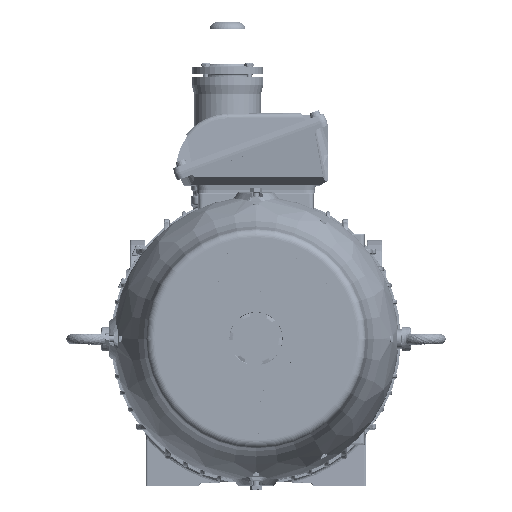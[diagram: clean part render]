
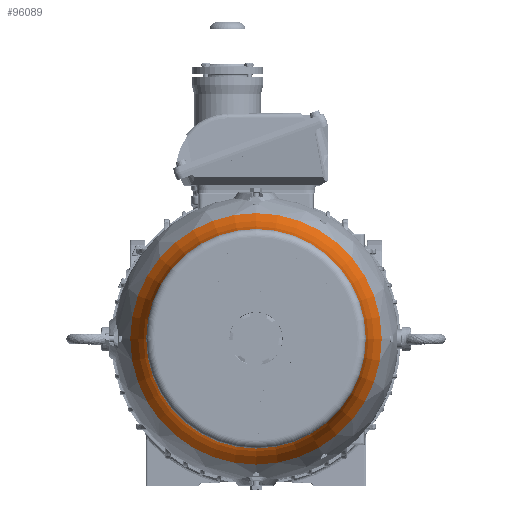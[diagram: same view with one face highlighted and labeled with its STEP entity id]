
A CAD part, top view. The second image highlights one B-rep face of the part: STEP entity #96089.
In plain terms, the highlighted toroidal (fillet/blend) face has major radius 264.661 mm and minor radius 130 mm.
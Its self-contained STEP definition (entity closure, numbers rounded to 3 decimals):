
#5404=TOROIDAL_SURFACE('',#104307,264.661,130.);
#11956=FACE_OUTER_BOUND('',#17872,.T.);
#17872=EDGE_LOOP('',(#72615,#72616,#72617,#72618,#72619,#72620));
#23535=CIRCLE('',#104305,154.526);
#23536=CIRCLE('',#104306,154.526);
#23537=CIRCLE('',#104308,130.);
#23538=CIRCLE('',#104309,134.976);
#23539=CIRCLE('',#104310,134.976);
#40220=VERTEX_POINT('',#160368);
#40221=VERTEX_POINT('',#160372);
#40222=VERTEX_POINT('',#160484);
#40223=VERTEX_POINT('',#160486);
#51621=EDGE_CURVE('',#40220,#40221,#23535,.T.);
#51622=EDGE_CURVE('',#40221,#40220,#23536,.T.);
#51627=EDGE_CURVE('',#40220,#40222,#23537,.T.);
#51628=EDGE_CURVE('',#40222,#40223,#23538,.T.);
#51629=EDGE_CURVE('',#40223,#40222,#23539,.T.);
#72615=ORIENTED_EDGE('',*,*,#51622,.F.);
#72616=ORIENTED_EDGE('',*,*,#51621,.F.);
#72617=ORIENTED_EDGE('',*,*,#51627,.T.);
#72618=ORIENTED_EDGE('',*,*,#51628,.T.);
#72619=ORIENTED_EDGE('',*,*,#51629,.T.);
#72620=ORIENTED_EDGE('',*,*,#51627,.F.);
#96089=ADVANCED_FACE('',(#11956),#5404,.F.);
#104305=AXIS2_PLACEMENT_3D('',#160373,#121983,#121984);
#104306=AXIS2_PLACEMENT_3D('',#160374,#121985,#121986);
#104307=AXIS2_PLACEMENT_3D('',#160483,#121987,#121988);
#104308=AXIS2_PLACEMENT_3D('',#160485,#121989,#121990);
#104309=AXIS2_PLACEMENT_3D('',#160487,#121991,#121992);
#104310=AXIS2_PLACEMENT_3D('',#160488,#121993,#121994);
#121983=DIRECTION('center_axis',(0.,0.,
-1.));
#121984=DIRECTION('ref_axis',(-1.,0.,0.));
#121985=DIRECTION('center_axis',(0.,0.,
-1.));
#121986=DIRECTION('ref_axis',(-1.,0.,0.));
#121987=DIRECTION('center_axis',(0.,0.,
-1.));
#121988=DIRECTION('ref_axis',(-1.,0.,0.));
#121989=DIRECTION('center_axis',(0.,1.,0.));
#121990=DIRECTION('ref_axis',(1.,0.,0.));
#121991=DIRECTION('center_axis',(0.,0.,
-1.));
#121992=DIRECTION('ref_axis',(-1.,0.,0.));
#121993=DIRECTION('center_axis',(0.,0.,
-1.));
#121994=DIRECTION('ref_axis',(-1.,0.,0.));
#160368=CARTESIAN_POINT('',(154.526,0.,642.164));
#160372=CARTESIAN_POINT('',(-154.526,0.,642.164));
#160373=CARTESIAN_POINT('Origin',(0.,0.,
642.164));
#160374=CARTESIAN_POINT('Origin',(0.,0.,
642.164));
#160483=CARTESIAN_POINT('Origin',(0.,0.,
711.231));
#160484=CARTESIAN_POINT('',(134.976,0.,702.195));
#160485=CARTESIAN_POINT('Origin',(264.661,0.,
711.231));
#160486=CARTESIAN_POINT('',(-134.976,0.,702.195));
#160487=CARTESIAN_POINT('Origin',(0.,0.,
702.195));
#160488=CARTESIAN_POINT('Origin',(0.,0.,
702.195));
